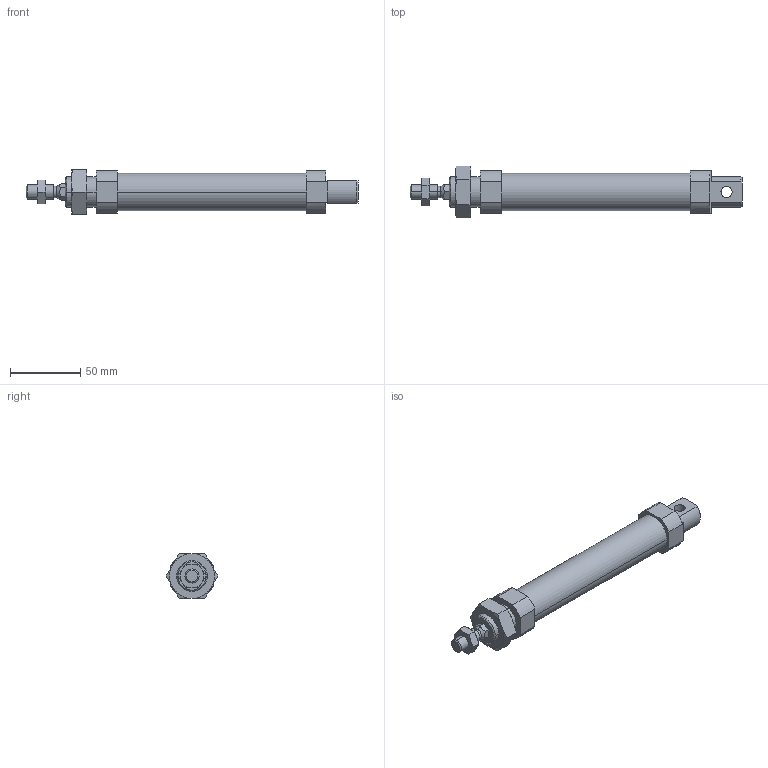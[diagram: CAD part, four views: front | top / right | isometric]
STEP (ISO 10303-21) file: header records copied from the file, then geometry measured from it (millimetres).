
FILE_DESCRIPTION (( 'STEP AP203' ), '1' );
FILE_NAME ('CSMK25-100.STEP', '2020-04-02T10:51:41', ( '' ), ( '' ), 'SwSTEP 2.0', 'SolidWorks 2019', '' );
FILE_SCHEMA (( 'CONFIG_CONTROL_DESIGN' ));
Length unit declared in the file: millimetre
Products named in the file (1): CSMK25-100
Bounding box: 237 x 36.95 x 32 mm (x, y, z)
Volume: 82002 mm3; surface area: 41310.8 mm2
Topology: 4 solids, 4 shells, 135 faces, 310 edges, 188 vertices
Faces by surface type: plane 53, cone 50, cylinder 32
Entity records: 4281 total; most frequent: CARTESIAN_POINT 1196, DIRECTION 632, ORIENTED_EDGE 612, EDGE_CURVE 306, AXIS2_PLACEMENT_3D 248, VERTEX_POINT 188, EDGE_LOOP 150, VECTOR 136
